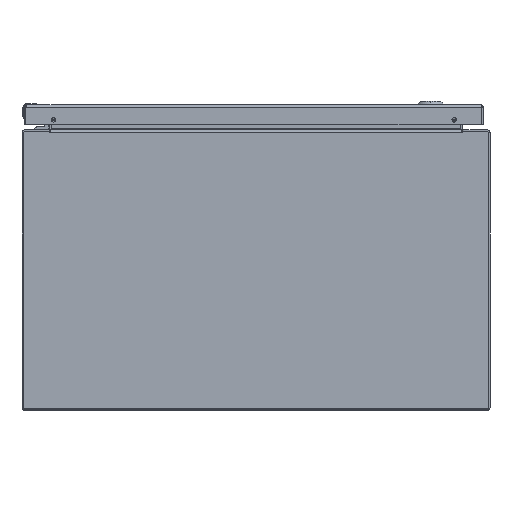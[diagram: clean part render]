
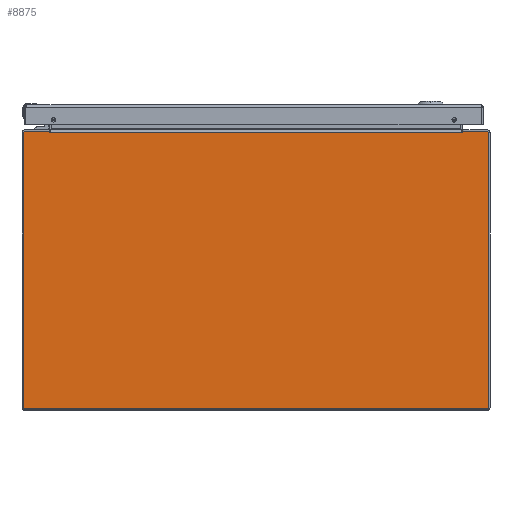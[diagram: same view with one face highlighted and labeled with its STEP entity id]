
A CAD part, front view. The second image highlights one B-rep face of the part: STEP entity #8875.
In plain terms, the highlighted planar face has unit normal (0, -1, 0).
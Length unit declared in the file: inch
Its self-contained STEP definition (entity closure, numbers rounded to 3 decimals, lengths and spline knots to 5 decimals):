
#7658=CARTESIAN_POINT('',(-9.857,0.,5.857));
#7659=DIRECTION('',(0.,-1.,0.));
#7660=DIRECTION('',(0.,0.,1.));
#7661=AXIS2_PLACEMENT_3D('',#7658,#7659,#7660);
#7666=DIRECTION('',(-1.,0.,0.));
#7667=VECTOR('',#7666,1.03388);
#7668=CARTESIAN_POINT('',(-8.82312,0.,5.937));
#7669=LINE('',#7668,#7667);
#7673=DIRECTION('',(0.174,0.,-0.985));
#7674=VECTOR('',#7673,0.05483);
#7675=CARTESIAN_POINT('',(-8.82312,0.,5.937));
#7676=LINE('',#7675,#7674);
#7680=DIRECTION('',(-1.,0.,0.));
#7681=VECTOR('',#7680,0.0156);
#7682=CARTESIAN_POINT('',(-8.798,0.,5.883));
#7683=LINE('',#7682,#7681);
#7687=DIRECTION('',(1.,0.,0.));
#7688=VECTOR('',#7687,0.0156);
#7689=CARTESIAN_POINT('',(8.798,0.,5.883));
#7690=LINE('',#7689,#7688);
#7694=DIRECTION('',(-0.174,0.,-0.985));
#7695=VECTOR('',#7694,0.05483);
#7696=CARTESIAN_POINT('',(8.82312,0.,5.937));
#7697=LINE('',#7696,#7695);
#7701=DIRECTION('',(-1.,0.,0.));
#7702=VECTOR('',#7701,1.03388);
#7703=CARTESIAN_POINT('',(9.857,0.,5.937));
#7704=LINE('',#7703,#7702);
#7708=CARTESIAN_POINT('',(9.857,0.,5.857));
#7709=DIRECTION('',(0.,-1.,0.));
#7710=DIRECTION('',(1.,0.,0.));
#7711=AXIS2_PLACEMENT_3D('',#7708,#7709,#7710);
#7716=DIRECTION('',(0.,0.,1.));
#7717=VECTOR('',#7716,11.714);
#7718=CARTESIAN_POINT('',(9.937,0.,-5.857));
#7719=LINE('',#7718,#7717);
#7723=CARTESIAN_POINT('',(9.857,0.,-5.857));
#7724=DIRECTION('',(0.,-1.,0.));
#7725=DIRECTION('',(0.,0.,-1.));
#7726=AXIS2_PLACEMENT_3D('',#7723,#7724,#7725);
#7731=DIRECTION('',(1.,0.,0.));
#7732=VECTOR('',#7731,19.714);
#7733=CARTESIAN_POINT('',(-9.857,0.,-5.937));
#7734=LINE('',#7733,#7732);
#7738=CARTESIAN_POINT('',(-9.857,0.,-5.857));
#7739=DIRECTION('',(0.,-1.,0.));
#7740=DIRECTION('',(-1.,0.,0.));
#7741=AXIS2_PLACEMENT_3D('',#7738,#7739,#7740);
#7746=DIRECTION('',(0.,0.,-1.));
#7747=VECTOR('',#7746,11.714);
#7748=CARTESIAN_POINT('',(-9.937,0.,5.857));
#7749=LINE('',#7748,#7747);
#8027=DIRECTION('',(1.,0.,0.));
#8028=VECTOR('',#8027,17.596);
#8029=CARTESIAN_POINT('',(-8.798,0.,5.883));
#8030=LINE('',#8029,#8028);
#8688=CARTESIAN_POINT('',(8.798,0.,5.883));
#8689=CARTESIAN_POINT('',(8.8136,0.,5.883));
#8690=VERTEX_POINT('',#8688);
#8691=VERTEX_POINT('',#8689);
#8692=CARTESIAN_POINT('',(8.82312,0.,5.937));
#8693=VERTEX_POINT('',#8692);
#8700=CARTESIAN_POINT('',(-8.798,0.,5.883));
#8701=CARTESIAN_POINT('',(-8.8136,0.,5.883));
#8702=VERTEX_POINT('',#8700);
#8703=VERTEX_POINT('',#8701);
#8704=CARTESIAN_POINT('',(-8.82312,0.,5.937));
#8705=VERTEX_POINT('',#8704);
#8764=CARTESIAN_POINT('',(-9.857,0.,5.937));
#8765=CARTESIAN_POINT('',(-9.937,0.,5.857));
#8766=VERTEX_POINT('',#8764);
#8767=VERTEX_POINT('',#8765);
#8772=CARTESIAN_POINT('',(-9.937,0.,-5.857));
#8773=CARTESIAN_POINT('',(-9.857,0.,-5.937));
#8774=VERTEX_POINT('',#8772);
#8775=VERTEX_POINT('',#8773);
#8780=CARTESIAN_POINT('',(9.857,0.,-5.937));
#8781=CARTESIAN_POINT('',(9.937,0.,-5.857));
#8782=VERTEX_POINT('',#8780);
#8783=VERTEX_POINT('',#8781);
#8788=CARTESIAN_POINT('',(9.937,0.,5.857));
#8789=CARTESIAN_POINT('',(9.857,0.,5.937));
#8790=VERTEX_POINT('',#8788);
#8791=VERTEX_POINT('',#8789);
#8840=CARTESIAN_POINT('',(0.,0.,0.));
#8841=DIRECTION('',(0.,-1.,0.));
#8842=DIRECTION('',(-1.,0.,0.));
#8843=AXIS2_PLACEMENT_3D('',#8840,#8841,#8842);
#8844=PLANE('',#8843);
#8846=ORIENTED_EDGE('',*,*,#8845,.F.);
#8848=ORIENTED_EDGE('',*,*,#8847,.F.);
#8850=ORIENTED_EDGE('',*,*,#8849,.T.);
#8852=ORIENTED_EDGE('',*,*,#8851,.F.);
#8854=ORIENTED_EDGE('',*,*,#8853,.T.);
#8856=ORIENTED_EDGE('',*,*,#8855,.T.);
#8858=ORIENTED_EDGE('',*,*,#8857,.F.);
#8860=ORIENTED_EDGE('',*,*,#8859,.F.);
#8862=ORIENTED_EDGE('',*,*,#8861,.F.);
#8864=ORIENTED_EDGE('',*,*,#8863,.F.);
#8866=ORIENTED_EDGE('',*,*,#8865,.F.);
#8868=ORIENTED_EDGE('',*,*,#8867,.F.);
#8870=ORIENTED_EDGE('',*,*,#8869,.F.);
#8872=ORIENTED_EDGE('',*,*,#8871,.F.);
#8873=EDGE_LOOP('',(#8846,#8848,#8850,#8852,#8854,#8856,#8858,#8860,#8862,#8864,
#8866,#8868,#8870,#8872));
#8874=FACE_OUTER_BOUND('',#8873,.F.);
#7662=CIRCLE('',#7661,0.08);
#7712=CIRCLE('',#7711,0.08);
#7727=CIRCLE('',#7726,0.08);
#7742=CIRCLE('',#7741,0.08);
#8845=EDGE_CURVE('',#8766,#8767,#7662,.T.);
#8847=EDGE_CURVE('',#8705,#8766,#7669,.T.);
#8849=EDGE_CURVE('',#8705,#8703,#7676,.T.);
#8851=EDGE_CURVE('',#8702,#8703,#7683,.T.);
#8853=EDGE_CURVE('',#8702,#8690,#8030,.T.);
#8855=EDGE_CURVE('',#8690,#8691,#7690,.T.);
#8857=EDGE_CURVE('',#8693,#8691,#7697,.T.);
#8859=EDGE_CURVE('',#8791,#8693,#7704,.T.);
#8861=EDGE_CURVE('',#8790,#8791,#7712,.T.);
#8863=EDGE_CURVE('',#8783,#8790,#7719,.T.);
#8865=EDGE_CURVE('',#8782,#8783,#7727,.T.);
#8867=EDGE_CURVE('',#8775,#8782,#7734,.T.);
#8869=EDGE_CURVE('',#8774,#8775,#7742,.T.);
#8871=EDGE_CURVE('',#8767,#8774,#7749,.T.);
#8875=ADVANCED_FACE('',(#8874),#8844,.T.);
